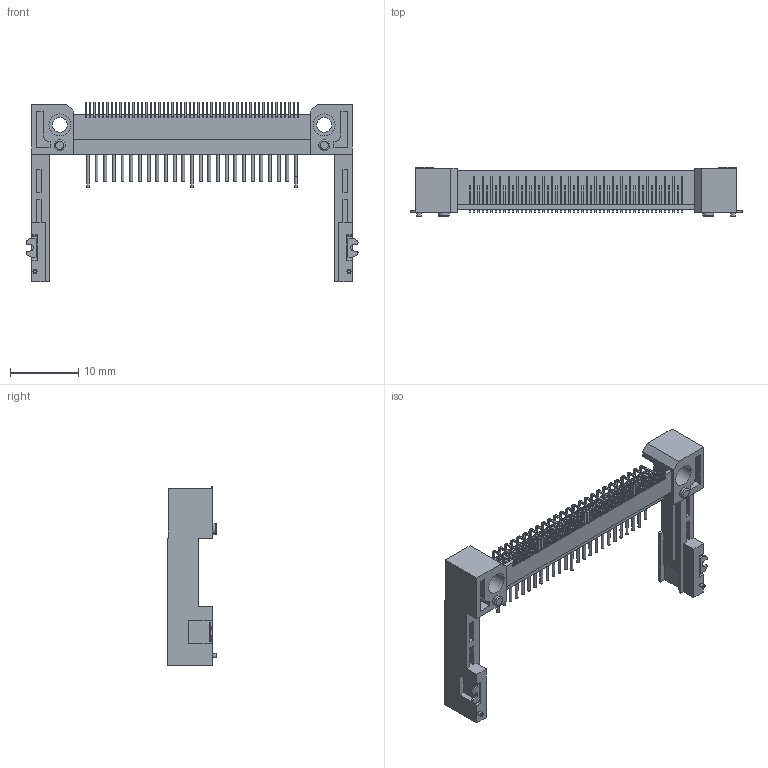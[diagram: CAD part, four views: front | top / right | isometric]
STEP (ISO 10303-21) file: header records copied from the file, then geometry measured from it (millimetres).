
FILE_DESCRIPTION(/* description */ (''),/* implementation_level */ '2;1');
FILE_NAME(/* name */ 'N7E50-R516XX-XX_step',/* time_stamp */ '2008-02-07T15:07:36-06:00',/* author */ (''),/* organization */ (''),/* preprocessor_version */ 'ST-DEVELOPER v9',/* originating_system */ 'UGS - NX 3.0',/* authorisation */ '');
FILE_SCHEMA (('AUTOMOTIVE_DESIGN { 1 0 10303 214 1 1 1 1 }'));
Length unit declared in the file: inch
Products named in the file (1): us256E91vyir
Bounding box: 48.64 x 7.25 x 26.3 mm (x, y, z)
Volume: 1316.4 mm3; surface area: 2970 mm2
Topology: 1 solids, 1 shells, 1064 faces, 2875 edges, 1925 vertices
Faces by surface type: plane 786, cylinder 274, torus 4
Full cylindrical faces by diameter (mm): 0.4 x50, 0.6 x2, 1.6 x2, 2.2 x2, 3.2 x2
Entity records: 32880 total; most frequent: CARTESIAN_POINT 5733, ORIENTED_EDGE 5556, DIRECTION 5460, EDGE_CURVE 2778, LINE 2226, VECTOR 2226, VERTEX_POINT 1890, AXIS2_PLACEMENT_3D 1617
